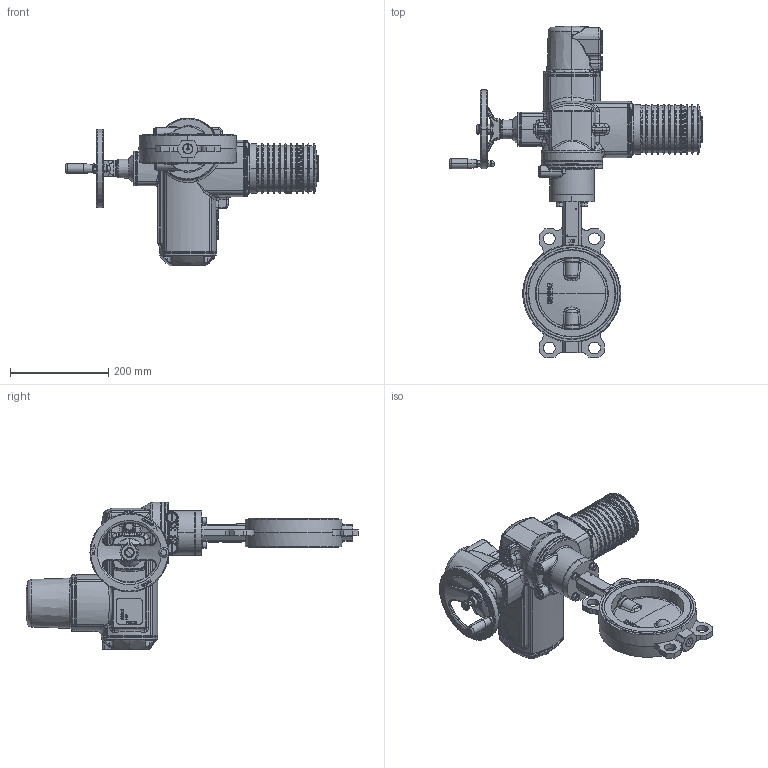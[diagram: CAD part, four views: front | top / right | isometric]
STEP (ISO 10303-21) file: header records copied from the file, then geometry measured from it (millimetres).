
FILE_DESCRIPTION (( 'STEP AP203' ), '1' );
FILE_NAME ('VPI-U24 DN 150.step', '2016-09-29T16:21:00', ( 'TECOFI' ), ( '' ), 'SwSTEP 2.0', 'SolidWorks 2014', '' );
FILE_SCHEMA (( 'CONFIG_CONTROL_DESIGN' ));
Length unit declared in the file: millimetre
Products named in the file (1): VPI-U24 DN 150
Bounding box: 514.2 x 674.5 x 300.3 mm (x, y, z)
Volume: 9109637.5 mm3; surface area: 741623 mm2
Topology: 37 solids, 37 shells, 3586 faces, 8672 edges, 5197 vertices
Faces by surface type: bspline 1208, plane 1008, cylinder 642, torus 331, cone 317, sphere 80
Entity records: 200472 total; most frequent: CARTESIAN_POINT 125926, ORIENTED_EDGE 17112, DIRECTION 13035, EDGE_CURVE 8556, VERTEX_POINT 5193, AXIS2_PLACEMENT_3D 4868, EDGE_LOOP 3763, ADVANCED_FACE 3586
